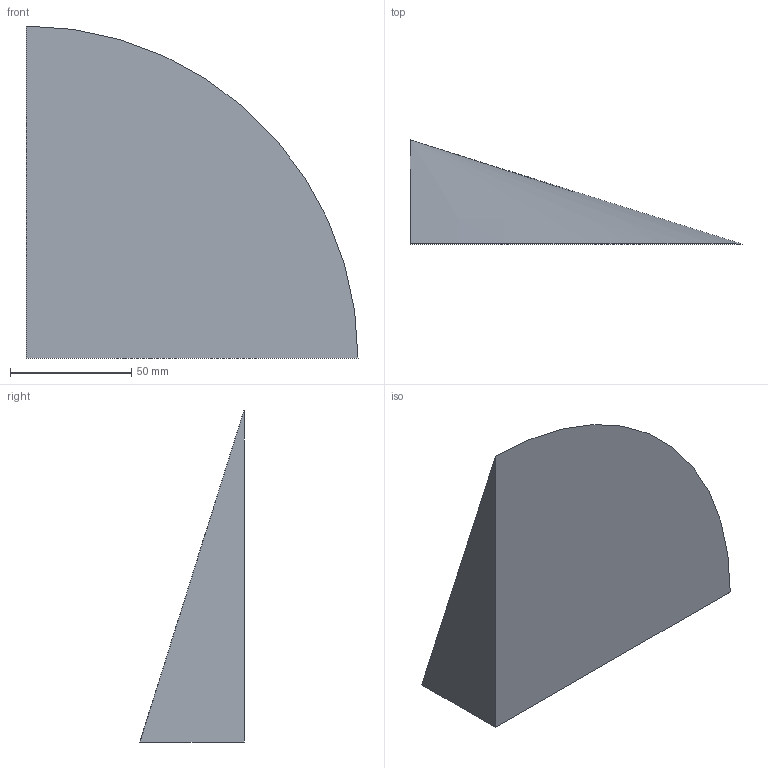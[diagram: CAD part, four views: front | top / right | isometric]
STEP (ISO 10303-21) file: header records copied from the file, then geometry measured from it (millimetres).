
FILE_DESCRIPTION(('CATIA V5 STEP Exchange'),'2;1');
FILE_NAME('C:\_Andres\UNIVERSIDAD\IQS\ASIGNATURAS\DAO\EXF\EXF-16172c\2inicio\Garcia_Granada_Ej07_v37.stp','2017-03-05T21:18:16+00:00',('none'),('none'),'CATIA Version 5-6 Release 2014 SP1 HF18','CATIA V5 STEP AP203','none');
FILE_SCHEMA(('CONFIG_CONTROL_DESIGN'));
Length unit declared in the file: millimetre
Products named in the file (1): Garcia_Granada_Ej07_v37
Bounding box: 137 x 43 x 137 mm (x, y, z)
Volume: 211289.6 mm3; surface area: 36082.3 mm2
Topology: 1 solids, 1 shells, 4 faces, 7 edges, 4 vertices
Faces by surface type: plane 3, cone 1
Entity records: 131 total; most frequent: CARTESIAN_POINT 15, DIRECTION 14, ORIENTED_EDGE 12, AXIS2_PLACEMENT_3D 6, EDGE_CURVE 6, VECTOR 5, LINE 5, ADVANCED_FACE 4
